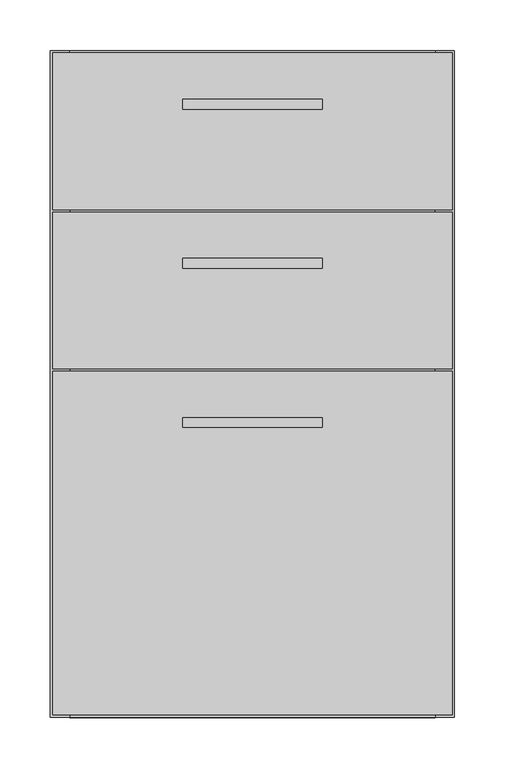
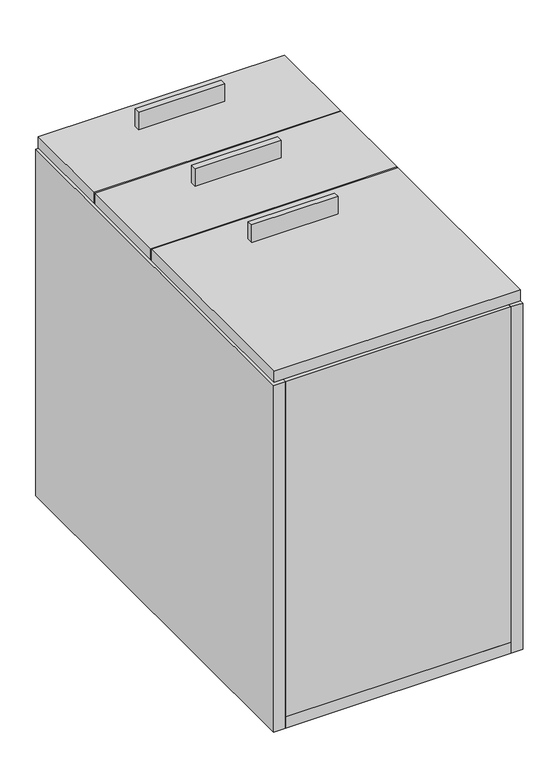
"""IFC4 building model written with IfcOpenShell, lengths in millimetres: proxy geometry, FOUNDATION^PEDESTAL_LETTER BBF 26x24D-SOLID ASSEMBLY."""

from ifc_helpers import new_model, si_unit, frame, origin, origin_with_axes, place, context, project, spatial, polyline, outline, extrude, source, transform, mapped, element, save


def generic_models_abbd5625(model_context):
    return source(origin(), model_context, "Body", "SweptSolid", [
        extrude(outline(polyline([(269.08125, 444.896875), (130.96875, 444.896875), (130.96875, 454.421875), (269.08125, 454.421875), (269.08125, 444.896875)])), frame((0.0, 0.0, 609.6), z_axis=(0.0, 0.0, 1.0), x_axis=(1.0, 0.0, 0.0)), (0.0, 0.0, 1.0), 30.1625),
        extrude(outline(polyline([(19.05, 641.35), (19.05, 660.4), (381.0, 660.4), (381.0, 641.35), (19.05, 641.35)])), frame((0.0, 0.0, 19.05), z_axis=(0.0, 0.0, 1.0), x_axis=(1.0, 0.0, 0.0)), (0.0, 0.0, 1.0), 568.325),
        extrude(outline(polyline([(19.05, 660.4), (19.05, 0.0), (0.0, 0.0), (0.0, 660.4), (19.05, 660.4)])), origin_with_axes(), (0.0, 0.0, 1.0), 587.375),
        extrude(outline(polyline([(397.66875, 502.840625), (2.38125, 502.840625), (2.38125, 658.01875), (397.66875, 658.01875), (397.66875, 502.840625)])), frame((0.0, 0.0, 590.55), z_axis=(0.0, 0.0, 1.0), x_axis=(1.0, 0.0, 0.0)), (0.0, 0.0, 1.0), 19.05),
        extrude(outline(polyline([(2.38125, 500.459375), (397.66875, 500.459375), (397.66875, 345.28125), (2.38125, 345.28125), (2.38125, 500.459375)])), frame((0.0, 0.0, 590.55), z_axis=(0.0, 0.0, 1.0), x_axis=(1.0, 0.0, 0.0)), (0.0, 0.0, 1.0), 19.05),
        extrude(outline(polyline([(381.0, 25.4), (381.0, 0.0), (19.05, 0.0), (19.05, 25.4), (381.0, 25.4)])), frame((0.0, 0.0, 19.05), z_axis=(0.0, 0.0, 1.0), x_axis=(1.0, 0.0, 0.0)), (0.0, 0.0, 1.0), 568.325),
        extrude(outline(polyline([(2.38125, 2.38125), (2.38125, 342.9), (397.66875, 342.9), (397.66875, 2.38125), (2.38125, 2.38125)])), frame((0.0, 0.0, 590.55), z_axis=(0.0, 0.0, 1.0), x_axis=(1.0, 0.0, 0.0)), (0.0, 0.0, 1.0), 19.05),
        extrude(outline(polyline([(381.0, 660.4), (381.0, 0.0), (19.05, 0.0), (19.05, 660.4), (381.0, 660.4)])), origin_with_axes(), (0.0, 0.0, 1.0), 19.05),
        extrude(outline(polyline([(381.0, 0.0), (381.0, 660.4), (400.05, 660.4), (400.05, 0.0), (381.0, 0.0)])), origin_with_axes(), (0.0, 0.0, 1.0), 587.375),
        extrude(outline(polyline([(269.08125, 602.45625), (130.96875, 602.45625), (130.96875, 611.98125), (269.08125, 611.98125), (269.08125, 602.45625)])), frame((0.0, 0.0, 609.6), z_axis=(0.0, 0.0, 1.0), x_axis=(1.0, 0.0, 0.0)), (0.0, 0.0, 1.0), 30.1625),
        extrude(outline(polyline([(269.08125, 287.3375), (130.96875, 287.3375), (130.96875, 296.8625), (269.08125, 296.8625), (269.08125, 287.3375)])), frame((0.0, 0.0, 609.6), z_axis=(0.0, 0.0, 1.0), x_axis=(1.0, 0.0, 0.0)), (0.0, 0.0, 1.0), 30.1625),
    ])


if __name__ == "__main__":
    model = new_model("IFC4")
    model_context = context("Model", 3, world=origin())
    ifc_project = project(units=[si_unit("LENGTHUNIT", "METRE", prefix="MILLI")], contexts=[model_context])
    site = spatial("IfcSite", under=ifc_project)
    building = spatial("IfcBuilding", under=site)
    placement = place(None, origin())
    generic_models_shape = generic_models_abbd5625(model_context)
    element("IfcBuildingElementProxy", 1, Name="FOUNDATION^PEDESTAL_LETTER BBF 26x24D-SOLID ASSEMBLY", ObjectType="FOUNDATION^PEDESTAL_LETTER BBF 26x24D-SOLID ASSEMBLY", at=placement, inside=building, context=model_context, shape_type="MappedRepresentation", body=[
        mapped(generic_models_shape, transform((0.0, 0.0, 0.0), x_axis=(1.0, 0.0, 0.0), y_axis=(0.0, 1.0, 0.0), z_axis=(0.0, 0.0, 1.0))),
    ])
    save(model, "model.ifc")
